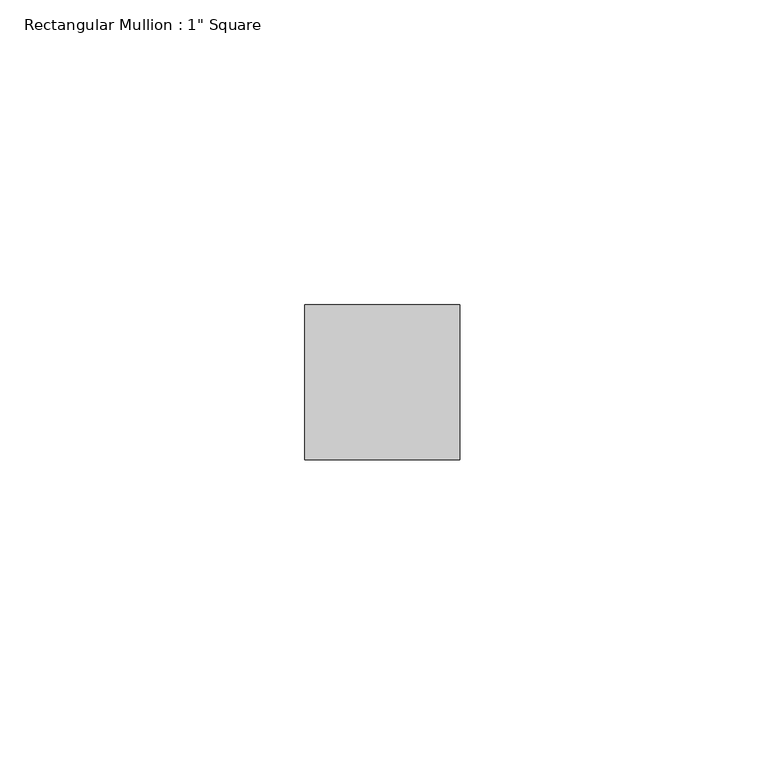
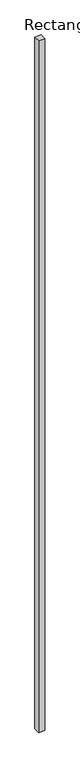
"""IFC4 building model written with IfcOpenShell, lengths in millimetres: member geometry."""

import ifcopenshell
import ifcopenshell.guid

model = None  # the IFC model being written
_history = None  # IfcOwnerHistory: only IFC2X3 demands one
_inside = {}  # id of a spatial element -> (the spatial element, [elements in it])
_under = {}  # id of a project, library or spatial element -> (it, [spatial elements below it])
_declared = {}  # id of a project -> (the project, [libraries it declares])
_typed = {}  # id of a type object -> (the type object, [elements of that type])
_made_of = {}  # id of a material, layer set ... -> (it, [elements and type objects made of it])


def new_model(schema):
    """Start an empty IFC model of exactly this schema.

    Asked for "IFC4X3", IfcOpenShell would pick the latest addendum, in which some entities
    have other attributes; the version numbers below select the first issue.
    IFC2X3 requires an IfcOwnerHistory on every rooted entity: one is made here for all.
    """
    global model, _history
    if schema == "IFC4X3":
        model = ifcopenshell.file(schema_version=(4, 3, 0, 0))
    else:
        model = ifcopenshell.file(schema=schema)
    _inside.clear()
    _under.clear()
    _declared.clear()
    _typed.clear()
    _made_of.clear()
    _history = None
    if model.schema == "IFC2X3":
        org = make("IfcOrganization", Name="unknown")
        user = make(
            "IfcPersonAndOrganization",
            ThePerson=make("IfcPerson", FamilyName="unknown"),
            TheOrganization=org,
        )
        app = make(
            "IfcApplication",
            ApplicationDeveloper=org,
            Version="unknown",
            ApplicationFullName="unknown",
            ApplicationIdentifier="unknown",
        )
        _history = make(
            "IfcOwnerHistory",
            OwningUser=user,
            OwningApplication=app,
            ChangeAction="ADDED",
            CreationDate=0,
        )
    return model


def make(cls, **values):
    """One entity of the class cls with the attributes given. An attribute that is None is left unset."""
    return model.create_entity(
        cls, **{name: value for name, value in values.items() if value is not None}
    )


def rooted(cls, **values):
    """An entity with a GlobalId (a new one), such as an element, a storey or a relation."""
    return make(cls, GlobalId=ifcopenshell.guid.new(), OwnerHistory=_history, **values)


def si_unit(unit_type, name, prefix=None):
    """IfcSIUnit, for example si_unit("LENGTHUNIT", "METRE", prefix="MILLI")."""
    return make("IfcSIUnit", UnitType=unit_type, Prefix=prefix, Name=name)


def assignment(units):
    """IfcUnitAssignment: the units of a project."""
    return None if units is None else make("IfcUnitAssignment", Units=units)


def point(xyz):
    """IfcCartesianPoint."""
    return None if xyz is None else make("IfcCartesianPoint", Coordinates=xyz)


def direction(xyz):
    """IfcDirection."""
    return None if xyz is None else make("IfcDirection", DirectionRatios=xyz)


def frame(location, z_axis=None, x_axis=None):
    """IfcAxis2Placement3D, a coordinate frame: its origin and axes. An axis left out is left unset."""
    return make(
        "IfcAxis2Placement3D",
        Location=point(location),
        Axis=direction(z_axis),
        RefDirection=direction(x_axis),
    )


def origin():
    """The frame at (0, 0, 0) with its axes left unset."""
    return frame((0.0, 0.0, 0.0))


def place(relative_to, where):
    """IfcLocalPlacement: puts the frame where relative to a parent placement (None: the world)."""
    return make(
        "IfcLocalPlacement", PlacementRelTo=relative_to, RelativePlacement=where
    )


def context(
    kind, dimensions, precision=None, world=None, true_north=None, identifier=None
):
    """IfcGeometricRepresentationContext, for example the 3D "Model" context."""
    return make(
        "IfcGeometricRepresentationContext",
        ContextIdentifier=identifier,
        ContextType=kind,
        CoordinateSpaceDimension=dimensions,
        Precision=precision,
        WorldCoordinateSystem=world,
        TrueNorth=true_north,
    )


def project(units=None, contexts=None):
    """IfcProject with its units and contexts."""
    return rooted(
        "IfcProject",
        Name="project",
        RepresentationContexts=contexts,
        UnitsInContext=assignment(units),
    )


def spatial(cls, under=None, at=None, **own):
    """A site, building, storey or space (cls), placed at a placement, below another one or the project."""
    s = rooted(cls, ObjectPlacement=at, **own)
    if under is not None:
        _under.setdefault(under.id(), (under, []))[1].append(s)
    return s


def polyline(points):
    """IfcPolyline through the points."""
    return make("IfcPolyline", Points=[point(p) for p in points])


def outline(outer, holes=None, kind="AREA"):
    """IfcArbitraryClosedProfileDef: a profile drawn as a closed curve; with holes, ...WithVoids."""
    if holes is None:
        return make("IfcArbitraryClosedProfileDef", ProfileType=kind, OuterCurve=outer)
    return make(
        "IfcArbitraryProfileDefWithVoids",
        ProfileType=kind,
        OuterCurve=outer,
        InnerCurves=holes,
    )


def extrude(swept, where, along, depth):
    """IfcExtrudedAreaSolid: the profile swept, set in the frame where, extruded along a direction by depth."""
    return make(
        "IfcExtrudedAreaSolid",
        SweptArea=swept,
        Position=where,
        ExtrudedDirection=direction(along),
        Depth=depth,
    )


def shape(context_of_items, identifier, shape_type, items):
    """IfcShapeRepresentation: the items that make up one representation, for example the "Body"."""
    return make(
        "IfcShapeRepresentation",
        ContextOfItems=context_of_items,
        RepresentationIdentifier=identifier,
        RepresentationType=shape_type,
        Items=items,
    )


def source(mapping_origin, context_of_items, identifier, shape_type, items):
    """IfcRepresentationMap: a shape defined once, which mapped items show again and again."""
    return make(
        "IfcRepresentationMap",
        MappingOrigin=mapping_origin,
        MappedRepresentation=shape(context_of_items, identifier, shape_type, items),
    )


def transform(
    local_origin,
    x_axis=None,
    y_axis=None,
    z_axis=None,
    scale=None,
    scale2=None,
    scale3=None,
    uniform=True,
):
    """IfcCartesianTransformationOperator3D, or its non-uniform kind. x_axis, y_axis, z_axis: its Axis1, 2, 3."""
    if uniform:
        return make(
            "IfcCartesianTransformationOperator3D",
            Axis1=direction(x_axis),
            Axis2=direction(y_axis),
            LocalOrigin=point(local_origin),
            Scale=scale,
            Axis3=direction(z_axis),
        )
    return make(
        "IfcCartesianTransformationOperator3DnonUniform",
        Axis1=direction(x_axis),
        Axis2=direction(y_axis),
        LocalOrigin=point(local_origin),
        Scale=scale,
        Axis3=direction(z_axis),
        Scale2=scale2,
        Scale3=scale3,
    )


def mapped(mapping_source, mapping_target):
    """IfcMappedItem: shows the shape of a source again, moved by a transform."""
    return make(
        "IfcMappedItem", MappingSource=mapping_source, MappingTarget=mapping_target
    )


def made_of(thing, what):
    """Note that an element or type object is made of a material, layer set ...; save() writes the relation."""
    if what is not None:
        _made_of.setdefault(what.id(), (what, []))[1].append(thing)
    return thing


def element(
    cls,
    number,
    at=None,
    inside=None,
    cuts=None,
    type_object=None,
    material=None,
    context=None,
    identifier="Body",
    shape_type=None,
    held_by="IfcProductDefinitionShape",
    body=None,
    shapes=None,
    **own,
):
    """One element of the class cls, such as IfcWall. Its Tag is "e" and its number.

    at: its placement. inside: the storey or other place that contains it. cuts: it is an
    opening in that element (IfcRelVoidsElement). A single representation is given by context,
    identifier, shape_type and body (its items); several are given by shapes. held_by: the class
    of the entity that holds the representations. save() writes the other relations.
    """
    e = rooted(cls, Tag="e%d" % number, ObjectPlacement=at, **own)
    if body is not None:
        shapes = [shape(context, identifier, shape_type, body)]
    if shapes is not None:
        e.Representation = make(held_by, Representations=shapes)
    if inside is not None:
        _inside.setdefault(inside.id(), (inside, []))[1].append(e)
    if cuts is not None:
        rooted(
            "IfcRelVoidsElement", RelatingBuildingElement=cuts, RelatedOpeningElement=e
        )
    if type_object is not None:
        _typed.setdefault(type_object.id(), (type_object, []))[1].append(e)
    return made_of(e, material)


def aggregate(whole, parts):
    """IfcRelAggregates: a whole, such as a stair, and the parts it consists of."""
    return rooted("IfcRelAggregates", RelatingObject=whole, RelatedObjects=parts)


def save(model, path):
    """Write the relations noted so far, then the file.

    IfcRelAggregates (storeys below a building ...), IfcRelContainedInSpatialStructure (elements
    in a storey), IfcRelDefinesByType, IfcRelAssociatesMaterial and IfcRelDeclares: one each for
    every whole, place, type object, material and project.
    """
    for whole, parts in _under.values():
        aggregate(whole, parts)
    for where, things in _inside.values():
        rooted(
            "IfcRelContainedInSpatialStructure",
            RelatedElements=things,
            RelatingStructure=where,
        )
    for kind, things in _typed.values():
        rooted("IfcRelDefinesByType", RelatedObjects=things, RelatingType=kind)
    for what, things in _made_of.values():
        rooted("IfcRelAssociatesMaterial", RelatedObjects=things, RelatingMaterial=what)
    for by, libraries in _declared.values():
        rooted("IfcRelDeclares", RelatingContext=by, RelatedDefinitions=libraries)
    model.write(path)


def member_073c649d(model_context):
    return source(origin(), model_context, "Body", "SweptSolid", [
        extrude(outline(polyline([(12.7, 12.7), (12.7, -12.7), (-12.7, -12.7), (-12.7, 12.7), (12.7, 12.7)])), frame((0.0, 0.0, -2909.8266474), z_axis=(0.0, 0.0, 1.0), x_axis=(1.0, 0.0, 0.0)), (0.0, 0.0, 1.0), 2909.8266474),
    ])


if __name__ == "__main__":
    model = new_model("IFC4")
    model_context = context("Model", 3, world=origin())
    ifc_project = project(units=[si_unit("LENGTHUNIT", "METRE", prefix="MILLI")], contexts=[model_context])
    site = spatial("IfcSite", under=ifc_project)
    building = spatial("IfcBuilding", under=site)
    placement = place(None, origin())
    member_shape = member_073c649d(model_context)
    element("IfcMember", 1, ObjectType="Rectangular Mullion : 1\" Square", at=placement, inside=building, context=model_context, shape_type="MappedRepresentation", body=[
        mapped(member_shape, transform((0.0, 0.0, 0.0), x_axis=(1.0, 0.0, 0.0), y_axis=(0.0, 1.0, 0.0), z_axis=(0.0, 0.0, 1.0))),
    ])
    save(model, "model.ifc")
